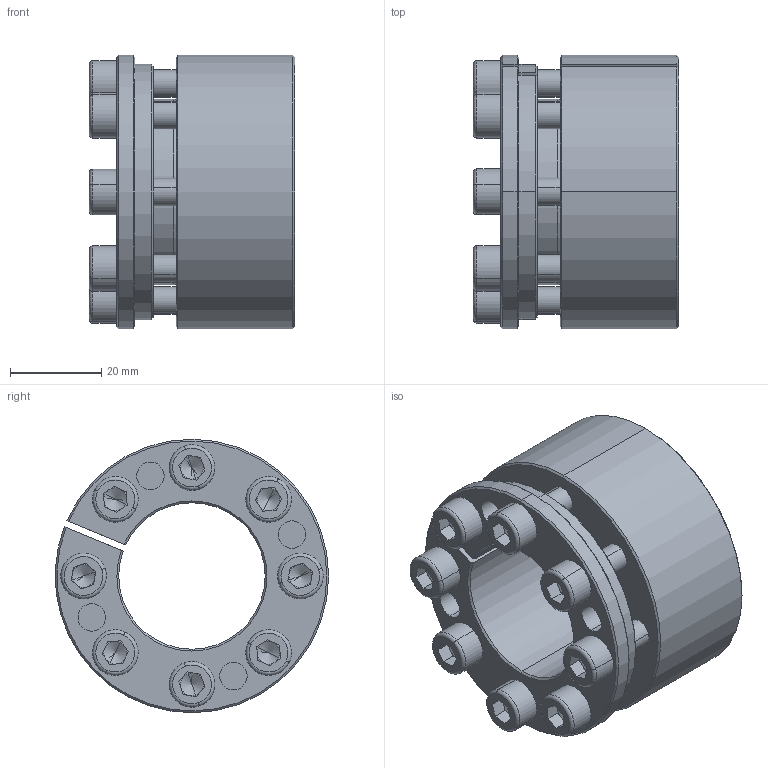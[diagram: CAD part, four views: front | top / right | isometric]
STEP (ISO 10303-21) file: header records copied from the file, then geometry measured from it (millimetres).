
FILE_DESCRIPTION (( 'STEP AP214' ), '1' );
FILE_NAME ('PL-H2 32-60.STEP', '2022-07-25T01:57:29', ( '' ), ( '' ), 'SwSTEP 2.0', 'SolidWorks 2022', '' );
FILE_SCHEMA (( 'AUTOMOTIVE_DESIGN' ));
Length unit declared in the file: millimetre
Products named in the file (1): PL-H2 32-60
Bounding box: 45 x 59.89 x 59.92 mm (x, y, z)
Volume: 67418.3 mm3; surface area: 25980.6 mm2
Topology: 1 solids, 1 shells, 299 faces, 733 edges, 452 vertices
Faces by surface type: plane 128, cylinder 87, cone 68, torus 16
Entity records: 8834 total; most frequent: DIRECTION 1634, CARTESIAN_POINT 1541, ORIENTED_EDGE 1434, EDGE_CURVE 717, AXIS2_PLACEMENT_3D 641, VERTEX_POINT 452, EDGE_LOOP 355, LINE 352
